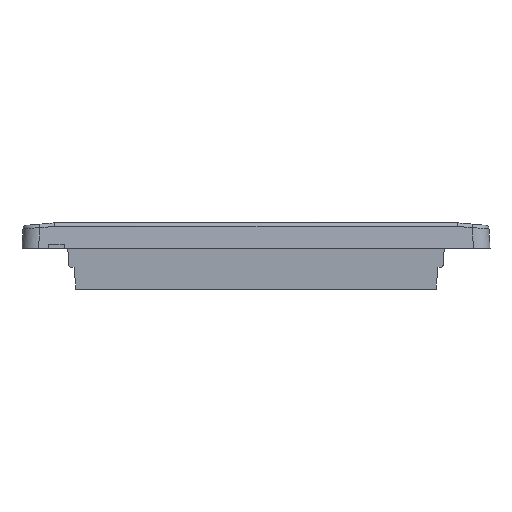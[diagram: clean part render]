
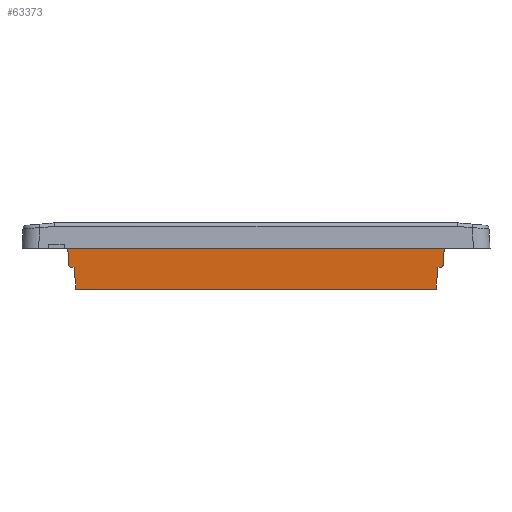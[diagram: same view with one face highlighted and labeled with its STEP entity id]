
A CAD part, front view. The second image highlights one B-rep face of the part: STEP entity #63373.
In plain terms, the highlighted free-form (B-spline) face has degree [1, 1] with [2, 2] control points.
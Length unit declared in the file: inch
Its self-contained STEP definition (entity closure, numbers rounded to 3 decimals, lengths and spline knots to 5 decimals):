
#62038=CARTESIAN_POINT('V985',(0.0389,-12.90102,
   0.46686));
#62039=VERTEX_POINT('V985',#62038);
#62045=CARTESIAN_POINT('V141',(0.05479,-12.91695,
   0.77));
#62046=VERTEX_POINT('V141',#62045);
#62047=CARTESIAN_POINT('E1021',(0.0389,
   -12.90106,0.46686));
#62048=CARTESIAN_POINT('E1021',(0.05479,
   -12.91695,0.77));
#62049=B_SPLINE_CURVE_WITH_KNOTS('E1021',1,(#62047,#62048),
   .POLYLINE_FORM.,.F.,.U.,(2,2),(0.35849,
   0.59068),.UNSPECIFIED.);
#62050=EDGE_CURVE('E1021',#62039,#62046,#62049,.T.);
#62148=CARTESIAN_POINT('V1011',(-6.99933,
   -12.89808,0.41));
#62149=VERTEX_POINT('V1011',#62148);
#62155=CARTESIAN_POINT('V1023',(-6.95613,
   -12.89808,0.41));
#62156=VERTEX_POINT('V1023',#62155);
#62157=CARTESIAN_POINT('E1073',(-6.99933,
   -12.89808,0.41));
#62158=CARTESIAN_POINT('E1073',(-6.95613,
   -12.89808,0.41));
#62159=B_SPLINE_CURVE_WITH_KNOTS('E1073',1,(#62157,#62158),
   .POLYLINE_FORM.,.F.,.U.,(2,2),(0.0,0.4314),
   .UNSPECIFIED.);
#62160=EDGE_CURVE('E1073',#62149,#62156,#62159,.T.);
#62176=CARTESIAN_POINT('V1024',(-6.92026,
   -12.8766,0.));
#62177=VERTEX_POINT('V1024',#62176);
#62178=CARTESIAN_POINT('E1069',(-6.95613,
   -12.89808,0.41));
#62179=CARTESIAN_POINT('E1069',(-6.92026,
   -12.8766,0.));
#62180=QUASI_UNIFORM_CURVE('E1069',1,(#62178,#62179),.POLYLINE_FORM.,
   .F.,.U.);
#62181=EDGE_CURVE('E1069',#62156,#62177,#62180,.T.);
#62198=CARTESIAN_POINT('V998',(-0.10008,
   -12.8766,0.));
#62199=VERTEX_POINT('V998',#62198);
#62207=CARTESIAN_POINT('E2059',(-0.10008,
   -12.8766,0.0));
#62208=CARTESIAN_POINT('E2059',(-6.92026,
   -12.8766,0.0));
#62209=QUASI_UNIFORM_CURVE('E2059',1,(#62207,#62208),.POLYLINE_FORM.,
   .F.,.U.);
#62210=EDGE_CURVE('E2059',#62199,#62177,#62209,.T.);
#63266=CARTESIAN_POINT('V997',(-0.06421,
   -12.89808,0.41));
#63267=VERTEX_POINT('V997',#63266);
#63268=CARTESIAN_POINT('E1029',(-0.06421,
   -12.89808,0.41));
#63269=CARTESIAN_POINT('E1029',(-0.10008,
   -12.8766,0.));
#63270=QUASI_UNIFORM_CURVE('E1029',1,(#63268,#63269),.POLYLINE_FORM.,
   .F.,.U.);
#63271=EDGE_CURVE('E1029',#63267,#62199,#63270,.T.);
#63288=CARTESIAN_POINT('V986',(-0.02101,
   -12.89808,0.41));
#63289=VERTEX_POINT('V986',#63288);
#63297=CARTESIAN_POINT('E1033',(-0.02101,
   -12.89808,0.41));
#63298=CARTESIAN_POINT('E1033',(-0.06421,
   -12.89808,0.41));
#63299=B_SPLINE_CURVE_WITH_KNOTS('E1033',1,(#63297,#63298),
   .POLYLINE_FORM.,.F.,.U.,(2,2),(0.0,0.4314),
   .UNSPECIFIED.);
#63300=EDGE_CURVE('E1033',#63289,#63267,#63299,.T.);
#63323=CARTESIAN_POINT('E1013',(0.03888,
   -12.90104,0.46686));
#63324=CARTESIAN_POINT('E1013',(0.03838,
   -12.89997,0.44749));
#63325=CARTESIAN_POINT('E1013',(0.0202,
   -12.89886,0.41877));
#63326=CARTESIAN_POINT('E1013',(-0.00939,
   -12.89808,0.41));
#63327=CARTESIAN_POINT('E1013',(-0.02101,
   -12.89808,0.41));
#63328=B_SPLINE_CURVE_WITH_KNOTS('E1013',3,(#63323,#63324,#63325,
   #63326,#63327),.UNSPECIFIED.,.F.,.U.,(4,1,4),(0.0,
   0.00146,0.00231),.UNSPECIFIED.);
#63329=EDGE_CURVE('E1013',#62039,#63289,#63328,.T.);
#63337=CARTESIAN_POINT('F545',(-7.08431,
   -12.92246,0.87511));
#63338=CARTESIAN_POINT('F545',(0.06397,-12.92246,
   0.87511));
#63339=CARTESIAN_POINT('F545',(-7.08431,
   -12.87639,-0.00393));
#63340=CARTESIAN_POINT('F545',(0.06397,-12.87639,
   -0.00393));
#63341=B_SPLINE_SURFACE_WITH_KNOTS('F545',1,1,((#63337,#63339),(
   #63338,#63340)),.PLANE_SURF.,.F.,.F.,.U.,(2,2),(2,2),(0.0,
   8.12074),(0.0,1.0),.UNSPECIFIED.);
#63342=ORIENTED_EDGE('E1013',*,*,#63329,.T.);
#63343=ORIENTED_EDGE('F48',*,*,#63300,.T.);
#63344=ORIENTED_EDGE('E1029',*,*,#63271,.T.);
#63345=ORIENTED_EDGE('F1032',*,*,#62210,.T.);
#63346=ORIENTED_EDGE('E1069',*,*,#62181,.F.);
#63347=ORIENTED_EDGE('E1073',*,*,#62160,.F.);
#63348=CARTESIAN_POINT('V1012',(-7.05924,
   -12.90102,0.46686));
#63349=VERTEX_POINT('V1012',#63348);
#63350=CARTESIAN_POINT('E1053',(-6.99933,
   -12.89808,0.41));
#63351=CARTESIAN_POINT('E1053',(-7.01095,
   -12.89808,0.41));
#63352=CARTESIAN_POINT('E1053',(-7.04054,
   -12.89886,0.41877));
#63353=CARTESIAN_POINT('E1053',(-7.05872,
   -12.89997,0.44749));
#63354=CARTESIAN_POINT('E1053',(-7.05922,
   -12.90104,0.46686));
#63355=B_SPLINE_CURVE_WITH_KNOTS('E1053',3,(#63350,#63351,#63352,
   #63353,#63354),.UNSPECIFIED.,.F.,.U.,(4,1,4),(0.0,
   0.00085,0.00231),.UNSPECIFIED.);
#63356=EDGE_CURVE('E1053',#62149,#63349,#63355,.T.);
#63357=ORIENTED_EDGE('E1053',*,*,#63356,.T.);
#63358=CARTESIAN_POINT('V139',(-7.07513,
   -12.91695,0.77));
#63359=VERTEX_POINT('V139',#63358);
#63360=CARTESIAN_POINT('E1061',(-7.05924,
   -12.90106,0.46686));
#63361=CARTESIAN_POINT('E1061',(-7.07513,
   -12.91695,0.77));
#63362=B_SPLINE_CURVE_WITH_KNOTS('E1061',1,(#63360,#63361),
   .POLYLINE_FORM.,.F.,.U.,(2,2),(0.35849,
   0.59068),.UNSPECIFIED.);
#63363=EDGE_CURVE('E1061',#63349,#63359,#63362,.T.);
#63364=ORIENTED_EDGE('E1061',*,*,#63363,.T.);
#63365=CARTESIAN_POINT('E168',(-7.07513,
   -12.91695,0.77));
#63366=CARTESIAN_POINT('E168',(0.05479,-12.91695,
   0.77));
#63367=QUASI_UNIFORM_CURVE('E168',1,(#63365,#63366),.POLYLINE_FORM.,
   .F.,.U.);
#63368=EDGE_CURVE('E168',#63359,#62046,#63367,.T.);
#63369=ORIENTED_EDGE('E168',*,*,#63368,.T.);
#63370=ORIENTED_EDGE('E1021',*,*,#62050,.F.);
#63371=EDGE_LOOP('F545',(#63342,#63343,#63344,#63345,#63346,#63347,
   #63357,#63364,#63369,#63370));
#63372=FACE_OUTER_BOUND('F545',#63371,.F.);
#63373=ADVANCED_FACE('F545',(#63372),#63341,.F.);
